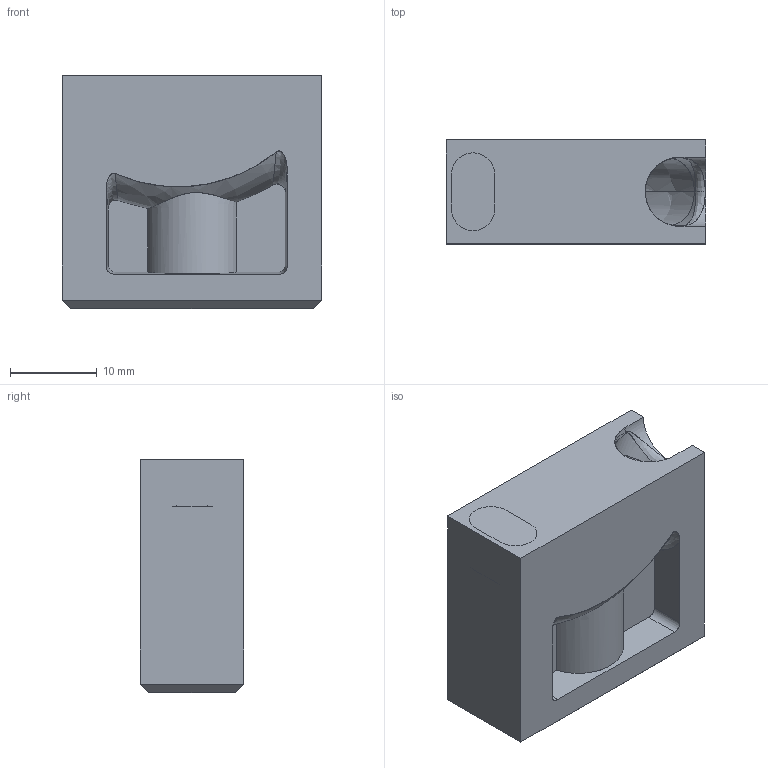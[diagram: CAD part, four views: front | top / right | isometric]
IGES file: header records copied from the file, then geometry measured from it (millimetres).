
Start section: START RECORD GO HERE.
Global section: file name: tgc3.igs; native system: DASSAULT SYSTEMES CATIA V5 R20 - www.3ds.com; preprocessor: CATIA Version 5 Release 20 ; author: Utente; organization: NB04-ASUS; date: 20210304.200823; units: millimetre
Bounding box: 30 x 12 x 27 mm (x, y, z)
Surface area: 4434.2 mm2 (no closed solid volume)
Topology: 0 solids, 0 shells, 94 faces, 530 edges, 525 vertices
Faces by surface type: revolution 38, bspline 30, plane 26
